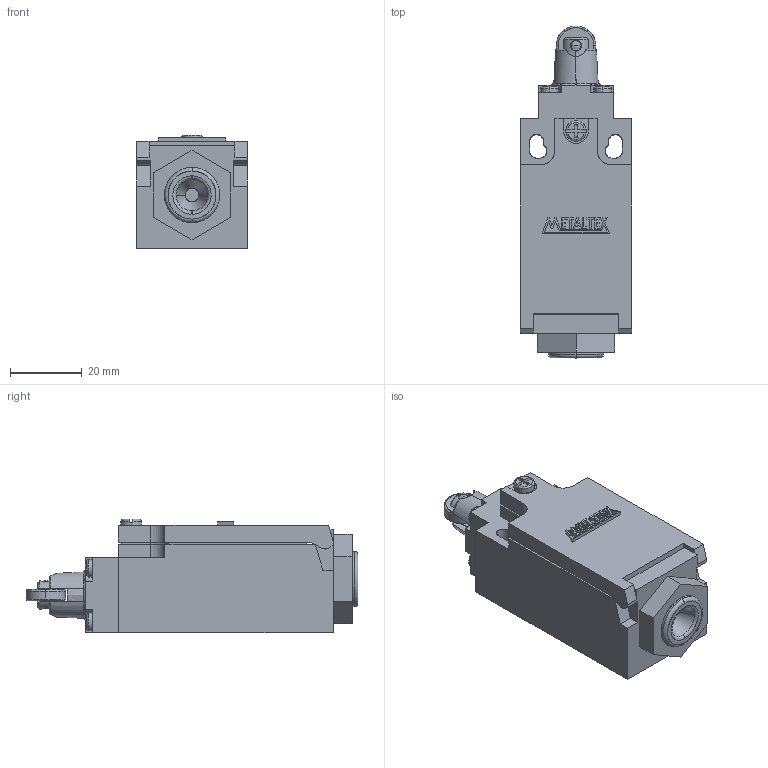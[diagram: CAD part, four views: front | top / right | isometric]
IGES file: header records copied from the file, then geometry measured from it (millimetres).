
Start section: SolidWorks IGES file using analytic representation for surfaces
Global section: file name: D:\X - Arquivos\PROEX\Empresas\P11 - METALTEX\01 - Produtos\IGES\4ª remessa\1ª etapa\FM9212.IGS; native system: SolidWorks 2012; preprocessor: SolidWorks 2012; author: Usuario; date: 180323.102626; units: millimetre
Bounding box: 31.2 x 92.7 x 31.7 mm (x, y, z)
Surface area: 13824.9 mm2 (no closed solid volume)
Topology: 0 solids, 0 shells, 372 faces, 3348 edges, 3345 vertices
Faces by surface type: bspline 312, revolution 60
